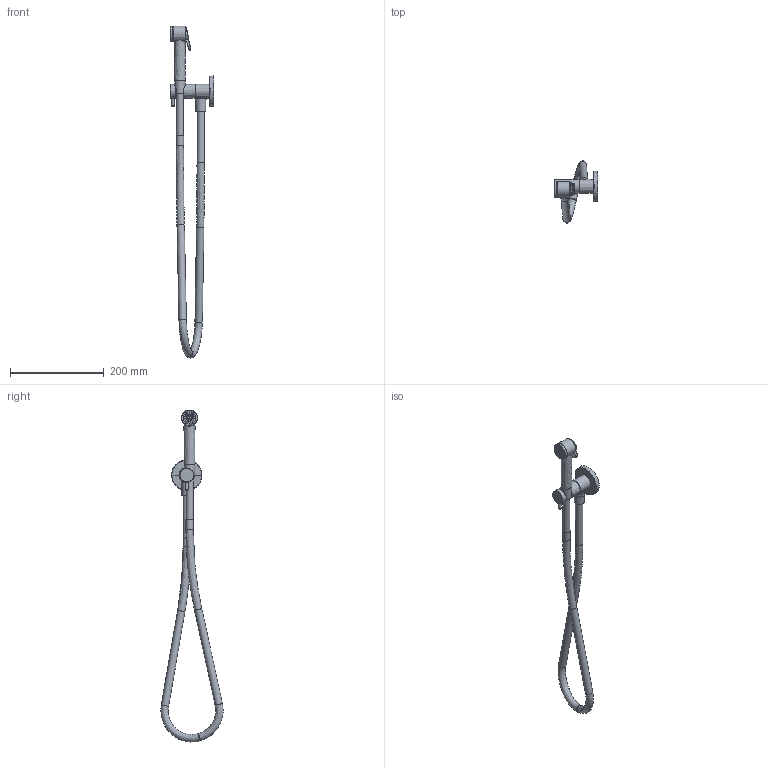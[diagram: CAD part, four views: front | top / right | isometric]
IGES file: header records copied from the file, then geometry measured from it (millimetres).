
Global section: file name: 72J017; native system: Autodesk Inventor 2017; preprocessor: unknown; author: CIANI; date: 20190625.134621; units: millimetre
Bounding box: 93.18 x 132.67 x 708.14 mm (x, y, z)
Volume: 408677.5 mm3; surface area: 92688.3 mm2
Topology: 1 solids, 1 shells, 227 faces, 700 edges, 484 vertices
Faces by surface type: bspline 227
